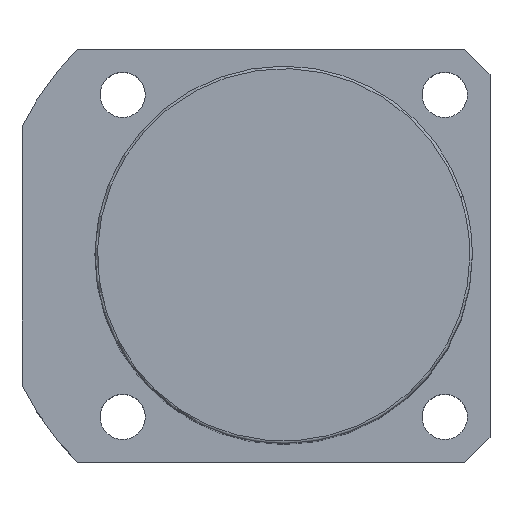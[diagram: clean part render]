
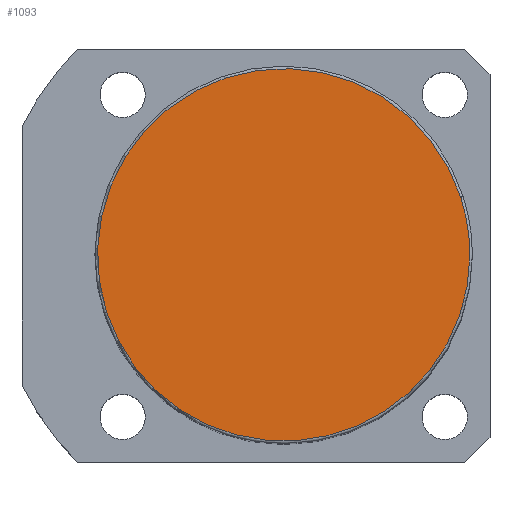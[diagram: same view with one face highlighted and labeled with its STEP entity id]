
A CAD part, top view. The second image highlights one B-rep face of the part: STEP entity #1093.
In plain terms, the highlighted planar face has unit normal (0, 0, 1).
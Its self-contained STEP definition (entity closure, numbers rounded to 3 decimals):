
#1026=CARTESIAN_POINT('',(35.189,11.434,133.0));
#1027=VERTEX_POINT('',#1026);
#1045=CARTESIAN_POINT('',(-35.189,-11.434,133.0));
#1046=VERTEX_POINT('',#1045);
#1054=CARTESIAN_POINT('',(0.0,0.0,133.0));
#1055=DIRECTION('',(0.0,0.0,1.0));
#1056=DIRECTION('',(1.0,0.0,0.0));
#1057=AXIS2_PLACEMENT_3D('',#1054,#1055,#1056);
#1058=CIRCLE('',#1057,37.0);
#1059=EDGE_CURVE('no 1671',#1027,#1046,#1058,.T.);
#1069=CARTESIAN_POINT('',(37.0,0.0,133.0));
#1070=VERTEX_POINT('',#1069);
#1071=CARTESIAN_POINT('',(0.0,0.0,133.0));
#1072=DIRECTION('',(0.0,0.0,1.0));
#1073=DIRECTION('',(1.0,0.0,0.0));
#1074=AXIS2_PLACEMENT_3D('',#1071,#1072,#1073);
#1075=CIRCLE('',#1074,37.0);
#1076=EDGE_CURVE('no 1680',#1070,#1027,#1075,.T.);
#1077=ORIENTED_EDGE('',*,*,#1076,.T.);
#1078=ORIENTED_EDGE('',*,*,#1059,.T.);
#1079=CARTESIAN_POINT('',(0.0,0.0,133.0));
#1080=DIRECTION('',(0.0,0.0,1.0));
#1081=DIRECTION('',(1.0,0.0,0.0));
#1082=AXIS2_PLACEMENT_3D('',#1079,#1080,#1081);
#1083=CIRCLE('',#1082,37.0);
#1084=EDGE_CURVE('no 1686',#1046,#1070,#1083,.T.);
#1085=ORIENTED_EDGE('',*,*,#1084,.T.);
#1086=EDGE_LOOP('',(#1077,#1078,#1085));
#1087=FACE_OUTER_BOUND('',#1086,.T.);
#1088=CARTESIAN_POINT('',(0.0,0.0,133.0));
#1089=DIRECTION('',(0.0,0.0,1.0));
#1090=DIRECTION('',(1.0,0.0,0.0));
#1091=AXIS2_PLACEMENT_3D('',#1088,#1089,#1090);
#1092=PLANE('',#1091);
#1093=ADVANCED_FACE('no 1673',(#1087),#1092,.T.);
